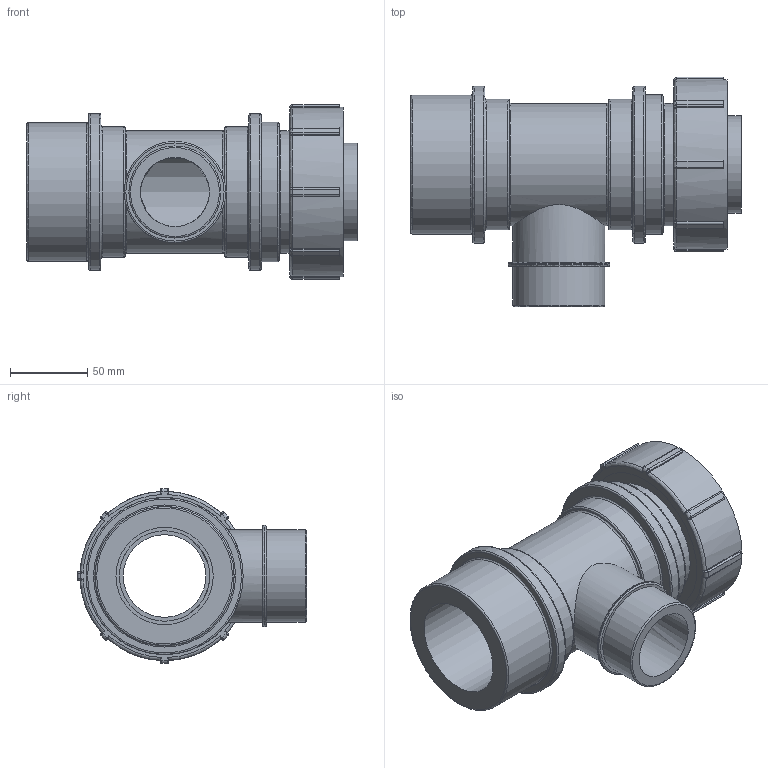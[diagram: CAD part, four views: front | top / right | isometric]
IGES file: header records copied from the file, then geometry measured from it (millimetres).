
Global section: file name: 0784L60630200A.ipt; native system: Autodesk Inventor 2015; preprocessor: unknown; author: KIM; date: 20180409.130819; units: millimetre
Bounding box: 214 x 148.5 x 113 mm (x, y, z)
Volume: 797326.2 mm3; surface area: 145441.2 mm2
Topology: 1 solids, 1 shells, 150 faces, 392 edges, 260 vertices
Faces by surface type: cylinder 53, plane 50, revolution 47
Full cylindrical faces by diameter (mm): 59.614 x2, 63 x1, 65.575 x1, 79.1 x2, 84.75 x2, 90 x1, 90.4 x1, 101.7 x2, 109.61 x1
